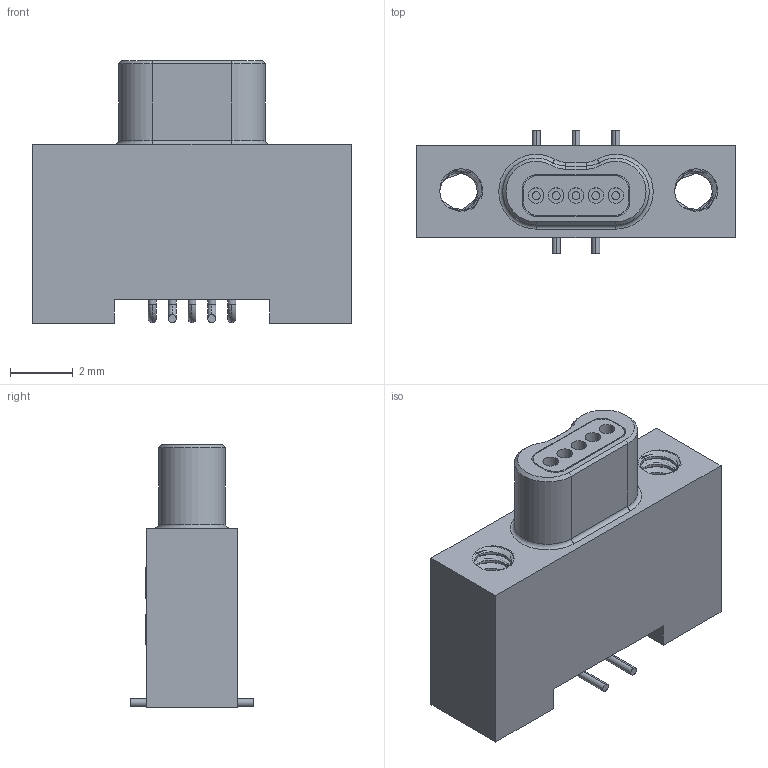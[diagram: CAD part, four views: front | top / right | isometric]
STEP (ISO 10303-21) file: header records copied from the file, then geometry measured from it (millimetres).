
FILE_DESCRIPTION (( 'STEP AP214' ), '1' );
FILE_NAME ('A54200-005 REV E.STEP', '2020-10-06T20:01:44', ( '' ), ( '' ), 'SwSTEP 2.0', 'SolidWorks 2019', '' );
FILE_SCHEMA (( 'AUTOMOTIVE_DESIGN' ));
Length unit declared in the file: inch
Products named in the file (1): A54200-005 REV E
Bounding box: 10.16 x 3.94 x 8.38 mm (x, y, z)
Volume: 160.5 mm3; surface area: 434 mm2
Topology: 1 solids, 3 shells, 391 faces, 1026 edges, 676 vertices
Faces by surface type: plane 168, cylinder 146, bspline 54, torus 14, cone 9
Entity records: 25701 total; most frequent: CARTESIAN_POINT 11588, ORIENTED_EDGE 2052, DIRECTION 1620, EDGE_CURVE 1026, VERTEX_POINT 676, LINE 572, VECTOR 572, AXIS2_PLACEMENT_3D 524
